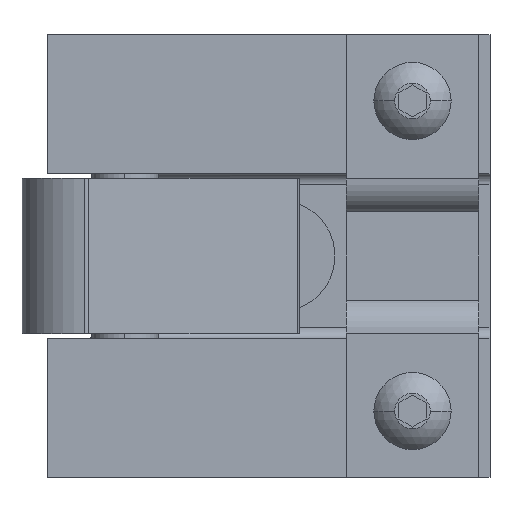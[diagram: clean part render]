
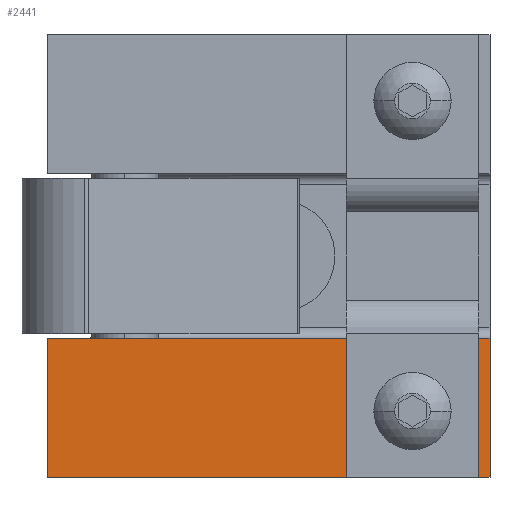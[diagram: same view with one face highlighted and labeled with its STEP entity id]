
A CAD part, left-side view. The second image highlights one B-rep face of the part: STEP entity #2441.
In plain terms, the highlighted planar face has unit normal (-1, 0, 0).
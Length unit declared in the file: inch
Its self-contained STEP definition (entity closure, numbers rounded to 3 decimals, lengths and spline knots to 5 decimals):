
#2401 = ORIENTED_EDGE ( 'NONE', *, *, #2405, .F. ) ;
#2405 = EDGE_CURVE ( 'NONE', #2460, #2407, #22706, .T. ) ;
#2407 = VERTEX_POINT ( 'NONE', #22702 ) ;
#2409 = ORIENTED_EDGE ( 'NONE', *, *, #2411, .F. ) ;
#2411 = EDGE_CURVE ( 'NONE', #2413, #2460, #22697, .T. ) ;
#2413 = VERTEX_POINT ( 'NONE', #22692 ) ;
#2415 = ORIENTED_EDGE ( 'NONE', *, *, #2417, .T. ) ;
#2417 = EDGE_CURVE ( 'NONE', #2413, #2418, #22750, .T. ) ;
#2418 = VERTEX_POINT ( 'NONE', #22746 ) ;
#2420 = ORIENTED_EDGE ( 'NONE', *, *, #2421, .T. ) ;
#2421 = EDGE_CURVE ( 'NONE', #2418, #2407, #22775, .T. ) ;
#2441 = ADVANCED_FACE ( 'NONE', ( #22862, #22861 ), #22842, .T. ) ;
#2444 = EDGE_LOOP ( 'NONE', ( #2446, #2453 ) ) ;
#2446 = ORIENTED_EDGE ( 'NONE', *, *, #2447, .F. ) ;
#2447 = EDGE_CURVE ( 'NONE', #2450, #2452, #22897, .T. ) ;
#2450 = VERTEX_POINT ( 'NONE', #22891 ) ;
#2452 = VERTEX_POINT ( 'NONE', #22886 ) ;
#2453 = ORIENTED_EDGE ( 'NONE', *, *, #2455, .F. ) ;
#2455 = EDGE_CURVE ( 'NONE', #2452, #2450, #22883, .T. ) ;
#2458 = EDGE_LOOP ( 'NONE', ( #2401, #2409, #2415, #2420 ) ) ;
#2460 = VERTEX_POINT ( 'NONE', #22874 ) ;
#22692 = CARTESIAN_POINT ( 'NONE',  ( -1.55018, 1.1794, -1.04364 ) ) ;
#22694 = DIRECTION ( 'NONE',  ( 0., 0., 1. ) ) ;
#22695 = VECTOR ( 'NONE', #22694, 39.37008 ) ;
#22696 = CARTESIAN_POINT ( 'NONE',  ( -1.55018, 1.1794, -1.04364 ) ) ;
#22697 = LINE ( 'NONE', #22696, #22695 ) ;
#22702 = CARTESIAN_POINT ( 'NONE',  ( -1.55018, -1.3206, -0.25864 ) ) ;
#22703 = DIRECTION ( 'NONE',  ( 0., -1., 0. ) ) ;
#22704 = VECTOR ( 'NONE', #22703, 39.37008 ) ;
#22705 = CARTESIAN_POINT ( 'NONE',  ( -1.55018, -1.3206, -0.25864 ) ) ;
#22706 = LINE ( 'NONE', #22705, #22704 ) ;
#22746 = CARTESIAN_POINT ( 'NONE',  ( -1.55018, -1.3206, -1.04364 ) ) ;
#22747 = DIRECTION ( 'NONE',  ( 0., -1., 0. ) ) ;
#22748 = VECTOR ( 'NONE', #22747, 39.37008 ) ;
#22749 = CARTESIAN_POINT ( 'NONE',  ( -1.55018, -1.3206, -1.04364 ) ) ;
#22750 = LINE ( 'NONE', #22749, #22748 ) ;
#22772 = DIRECTION ( 'NONE',  ( 0., 0., 1. ) ) ;
#22773 = VECTOR ( 'NONE', #22772, 39.37008 ) ;
#22774 = CARTESIAN_POINT ( 'NONE',  ( -1.55018, -1.3206, -1.04364 ) ) ;
#22775 = LINE ( 'NONE', #22774, #22773 ) ;
#22838 = DIRECTION ( 'NONE',  ( 0., 0., 1. ) ) ;
#22839 = DIRECTION ( 'NONE',  ( -1., 0., 0. ) ) ;
#22840 = CARTESIAN_POINT ( 'NONE',  ( -1.55018, -1.3206, -1.04364 ) ) ;
#22841 = AXIS2_PLACEMENT_3D ( 'NONE', #22840, #22839, #22838 ) ;
#22842 = PLANE ( 'NONE',  #22841 ) ;
#22861 = FACE_OUTER_BOUND ( 'NONE', #2458, .T. ) ;
#22862 = FACE_BOUND ( 'NONE', #2444, .T. ) ;
#22874 = CARTESIAN_POINT ( 'NONE',  ( -1.55018, 1.1794, -0.25864 ) ) ;
#22879 = DIRECTION ( 'NONE',  ( 0., 0., 1. ) ) ;
#22880 = DIRECTION ( 'NONE',  ( -1., 0., 0. ) ) ;
#22881 = CARTESIAN_POINT ( 'NONE',  ( -1.55018, -0.8831, -0.66864 ) ) ;
#22882 = AXIS2_PLACEMENT_3D ( 'NONE', #22881, #22880, #22879 ) ;
#22883 = CIRCLE ( 'NONE', #22882, 0.125 ) ;
#22886 = CARTESIAN_POINT ( 'NONE',  ( -1.55018, -0.8831, -0.79364 ) ) ;
#22891 = CARTESIAN_POINT ( 'NONE',  ( -1.55018, -0.8831, -0.54364 ) ) ;
#22893 = DIRECTION ( 'NONE',  ( 0., 0., 1. ) ) ;
#22894 = DIRECTION ( 'NONE',  ( -1., 0., 0. ) ) ;
#22895 = CARTESIAN_POINT ( 'NONE',  ( -1.55018, -0.8831, -0.66864 ) ) ;
#22896 = AXIS2_PLACEMENT_3D ( 'NONE', #22895, #22894, #22893 ) ;
#22897 = CIRCLE ( 'NONE', #22896, 0.125 ) ;
